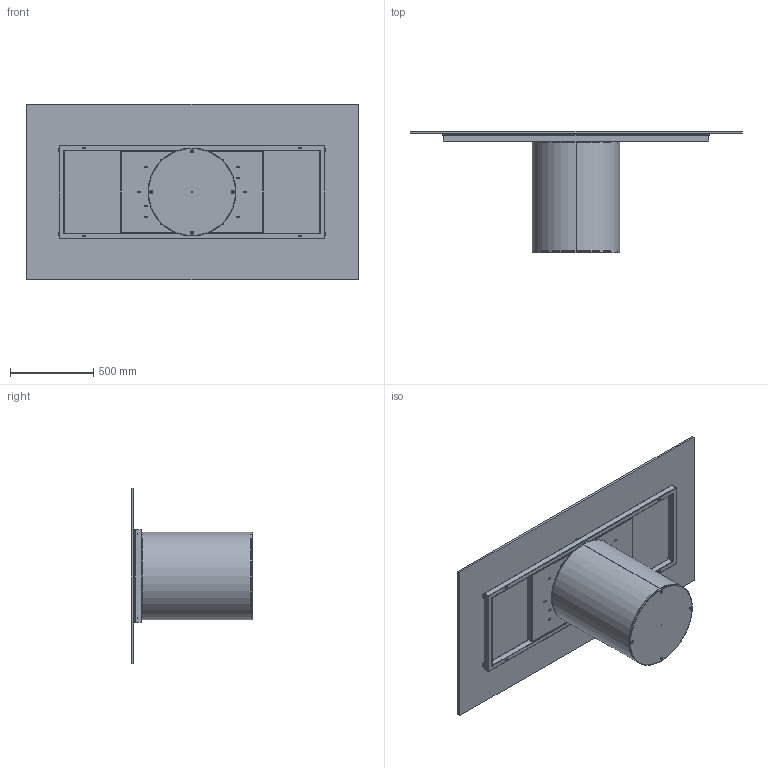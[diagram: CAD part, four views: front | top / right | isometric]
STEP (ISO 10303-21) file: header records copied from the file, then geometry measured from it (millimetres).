
FILE_DESCRIPTION (( 'STEP AP203' ), '1' );
FILE_NAME ('CI21G.STEP', '2024-08-08T07:21:52', ( '' ), ( '' ), 'SwSTEP 2.0', 'SolidWorks 2022', '' );
FILE_SCHEMA (( 'CONFIG_CONTROL_DESIGN' ));
Length unit declared in the file: millimetre
Products named in the file (11): TTAV01_02-05-VASSOIO IRRIGIDIMENTO TELAIO UNIVERSALE; C2XCRXX-00-Piani Rettangolari Cristallo_21 2000x1060; TTAV01-05-TELAIO UNIVERSALE X TAVOLI 180 240cm; 434070-00-PIEDINO TPV GOMMA NERO D. 30x8max18_filo estetico; C2B000000-03-CILINDRO BASE D.530mm_Normale; TTAV01_01-05-TELAIO UNIVERSALE X TAVOLI 180 240cm; COLLO TELAIO UNIVERSALE TTAV01 CON FERRAMENTA_MTG TOP CRISTALLO VERNICIATO-CERAMICA; C2B000000_02-01-ZAVORRA IN FERRO D.530mm; C2B000000_01-00-struttura cilindro D.530mm; CI21G; M8xXXmm_hex_M8X20mm
Assembly tree (18 placements, depth 4):
  CI21G
    C2B000000-03-CILINDRO BASE D.530mm_Normale
      C2B000000_01-00-struttura cilindro D.530mm
      C2B000000_02-01-ZAVORRA IN FERRO D.530mm
      M8xXXmm_hex_M8X20mm  x4
    COLLO TELAIO UNIVERSALE TTAV01 CON FERRAMENTA_MTG TOP CRISTALLO VERNICIATO-CERAMICA
      TTAV01-05-TELAIO UNIVERSALE X TAVOLI 180 240cm
        TTAV01_02-05-VASSOIO IRRIGIDIMENTO TELAIO UNIVERSALE
        TTAV01_01-05-TELAIO UNIVERSALE X TAVOLI 180 240cm
      434070-00-PIEDINO TPV GOMMA NERO D. 30x8max18_filo estetico  x6
    C2XCRXX-00-Piani Rettangolari Cristallo_21 2000x1060
Bounding box: 2000 x 732 x 1060 mm (x, y, z)
Volume: 34131759.7 mm3; surface area: 9425965.9 mm2
Topology: 24 solids, 24 shells, 568 faces, 1324 edges, 790 vertices
Faces by surface type: plane 256, cylinder 226, cone 32, torus 32, sphere 22
Entity records: 13621 total; most frequent: DIRECTION 2252, CARTESIAN_POINT 2077, ORIENTED_EDGE 2004, EDGE_CURVE 1002, AXIS2_PLACEMENT_3D 828, VERTEX_POINT 621, LINE 596, VECTOR 596
